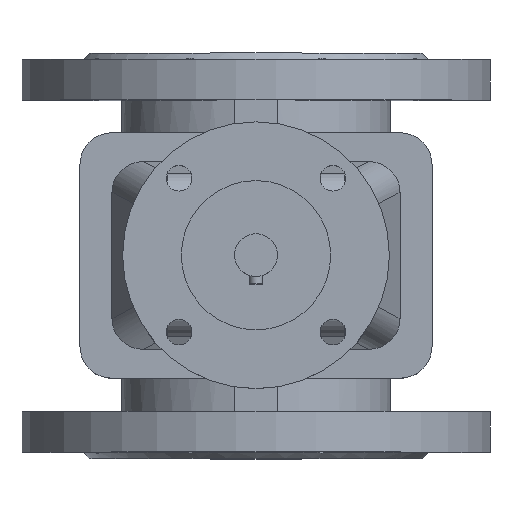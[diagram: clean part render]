
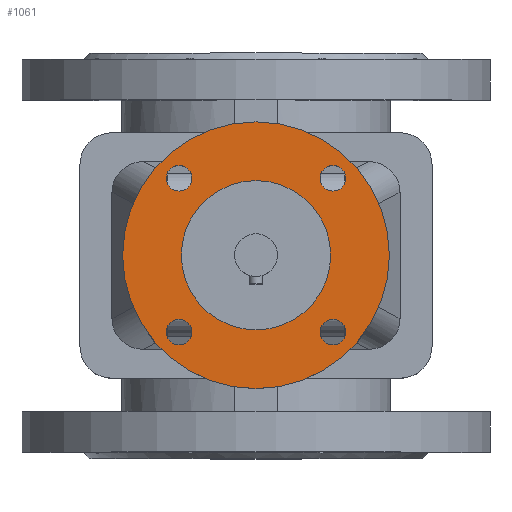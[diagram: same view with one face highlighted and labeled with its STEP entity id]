
A CAD part, top view. The second image highlights one B-rep face of the part: STEP entity #1061.
In plain terms, the highlighted planar face has unit normal (0, 0, 1).
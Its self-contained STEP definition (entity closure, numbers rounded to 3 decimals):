
#1061=ADVANCED_FACE('',(#2523,#2525,#2527,#2529,#2531,#2533),#2535,.T.);
#2523=FACE_BOUND('',#2524,.T.);
#2524=EDGE_LOOP('',(#3210));
#2525=FACE_BOUND('',#2526,.T.);
#2526=EDGE_LOOP('',(#3211));
#2527=FACE_BOUND('',#2528,.T.);
#2528=EDGE_LOOP('',(#3212));
#2529=FACE_BOUND('',#2530,.T.);
#2530=EDGE_LOOP('',(#3213));
#2531=FACE_BOUND('',#2532,.T.);
#2532=EDGE_LOOP('',(#3214));
#2533=FACE_BOUND('',#2534,.T.);
#2534=EDGE_LOOP('',(#3215));
#2535=PLANE('',#2536);
#2536=AXIS2_PLACEMENT_3D('',#2537,#2538,#2539);
#2537=CARTESIAN_POINT('',(0.,0.,205.));
#2538=DIRECTION('',(0.,0.,1.));
#2539=DIRECTION('',(0.,1.,0.));
#3210=ORIENTED_EDGE('',*,*,#3548,.F.);
#3211=ORIENTED_EDGE('',*,*,#3549,.T.);
#3212=ORIENTED_EDGE('',*,*,#3550,.T.);
#3213=ORIENTED_EDGE('',*,*,#3551,.T.);
#3214=ORIENTED_EDGE('',*,*,#3553,.T.);
#3215=ORIENTED_EDGE('',*,*,#3552,.T.);
#3548=EDGE_CURVE('',#4072,#4072,#4073,.T.);
#3549=EDGE_CURVE('',#4074,#4074,#4075,.F.);
#3550=EDGE_CURVE('',#4076,#4076,#4077,.F.);
#3551=EDGE_CURVE('',#4078,#4078,#4079,.F.);
#3552=EDGE_CURVE('',#4080,#4080,#4081,.F.);
#3553=EDGE_CURVE('',#4082,#4082,#4083,.T.);
#4072=VERTEX_POINT('',#6108);
#4073=CIRCLE('',#6109,62.5);
#4074=VERTEX_POINT('',#6113);
#4075=CIRCLE('',#6114,6.);
#4076=VERTEX_POINT('',#6118);
#4077=CIRCLE('',#6119,6.);
#4078=VERTEX_POINT('',#6123);
#4079=CIRCLE('',#6124,6.);
#4080=VERTEX_POINT('',#6128);
#4081=CIRCLE('',#6129,6.);
#4082=VERTEX_POINT('',#6133);
#4083=CIRCLE('',#6134,35.);
#6108=CARTESIAN_POINT('',(0.,62.5,205.));
#6109=AXIS2_PLACEMENT_3D('',#6110,#6111,#6112);
#6110=CARTESIAN_POINT('',(0.,0.,205.));
#6111=DIRECTION('',(-0.,-0.,-1.));
#6112=DIRECTION('',(0.,1.,0.));
#6113=CARTESIAN_POINT('',(-36.062,-30.062,205.));
#6114=AXIS2_PLACEMENT_3D('',#6115,#6116,#6117);
#6115=CARTESIAN_POINT('',(-36.062,-36.062,205.));
#6116=DIRECTION('',(0.,0.,1.));
#6117=DIRECTION('',(0.,1.,0.));
#6118=CARTESIAN_POINT('',(-30.062,36.062,205.));
#6119=AXIS2_PLACEMENT_3D('',#6120,#6121,#6122);
#6120=CARTESIAN_POINT('',(-36.062,36.062,205.));
#6121=DIRECTION('',(0.,0.,1.));
#6122=DIRECTION('',(1.,0.,0.));
#6123=CARTESIAN_POINT('',(36.062,30.062,205.));
#6124=AXIS2_PLACEMENT_3D('',#6125,#6126,#6127);
#6125=CARTESIAN_POINT('',(36.062,36.062,205.));
#6126=DIRECTION('',(0.,0.,1.));
#6127=DIRECTION('',(0.,-1.,-0.));
#6128=CARTESIAN_POINT('',(30.062,-36.062,205.));
#6129=AXIS2_PLACEMENT_3D('',#6130,#6131,#6132);
#6130=CARTESIAN_POINT('',(36.062,-36.062,205.));
#6131=DIRECTION('',(0.,0.,1.));
#6132=DIRECTION('',(-1.,0.,0.));
#6133=CARTESIAN_POINT('',(0.,35.,205.));
#6134=AXIS2_PLACEMENT_3D('',#6135,#6136,#6137);
#6135=CARTESIAN_POINT('',(0.,0.,205.));
#6136=DIRECTION('',(-0.,-0.,-1.));
#6137=DIRECTION('',(0.,1.,0.));
